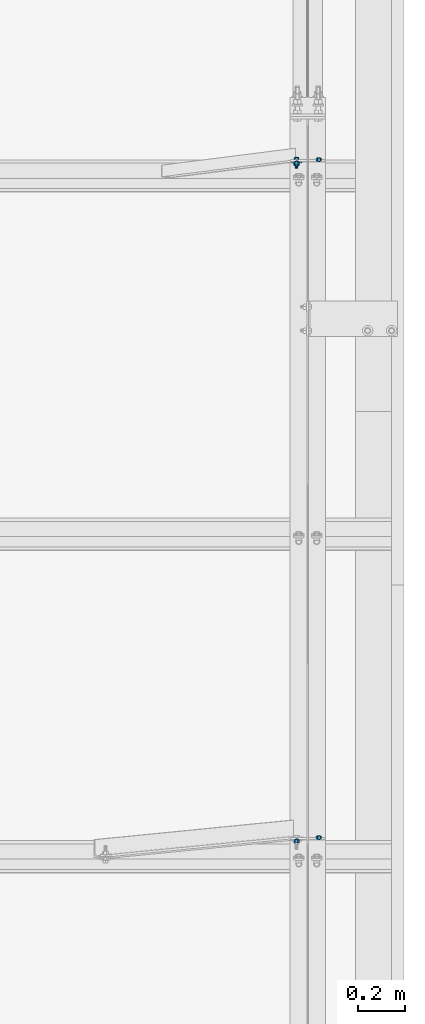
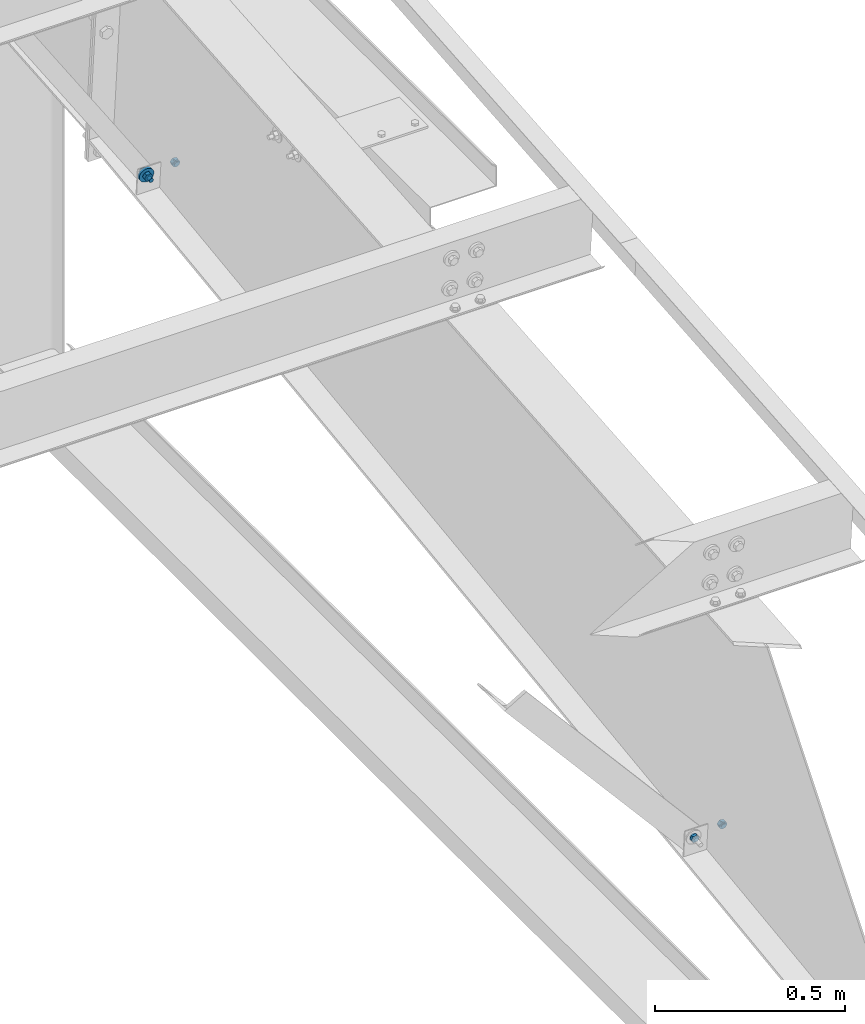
# One storey, part 169 of 185: 5 mechanical fasteners, 2 elements without a shape of their own.
"""IFC2X3 building model written with IfcOpenShell, lengths in millimetres."""

from ifc_helpers import new_model, si_unit, frame, origin_with_axes, origin_2d_with_axis, place, context, subcontext, project, spatial, polyline, circle, outline, extrude, source, transform, mapped, material, type_object, element, aggregate, save


model = new_model("IFC2X3")

# Units and contexts
model_context = context("Model", 3, precision=1e-05, world=origin_with_axes())
body_context = subcontext(model_context, "Body", "Model", "MODEL_VIEW")
ifc_project = project(units=[si_unit("LENGTHUNIT", "METRE", prefix="MILLI"), si_unit("AREAUNIT", "SQUARE_METRE"), si_unit("VOLUMEUNIT", "CUBIC_METRE"), si_unit("MASSUNIT", "GRAM", prefix="KILO"), si_unit("TIMEUNIT", "SECOND"), si_unit("PLANEANGLEUNIT", "RADIAN"), si_unit("SOLIDANGLEUNIT", "STERADIAN"), si_unit("THERMODYNAMICTEMPERATUREUNIT", "DEGREE_CELSIUS"), si_unit("LUMINOUSINTENSITYUNIT", "LUMEN")], contexts=[model_context])

# Site, building, storey
site_placement = place(None, origin_with_axes())
site = spatial("IfcSite", under=ifc_project, at=site_placement, Name="Undefined", CompositionType="ELEMENT")
building_placement = place(site_placement, origin_with_axes())
building = spatial("IfcBuilding", under=site, at=building_placement, Name="Undefined", CompositionType="ELEMENT")
storey_placement = place(building_placement, origin_with_axes())
storey = spatial("IfcBuildingStorey", under=building, at=storey_placement, Name="Undefined", CompositionType="ELEMENT", Elevation=0.0)

# Assembly, mechanical fastener
assembly_1_placement = place(storey_placement, origin_with_axes())
assembly_1 = element("IfcElementAssembly", 1, at=assembly_1_placement, inside=storey, Name="Steel Assembly", AssemblyPlace="NOTDEFINED", PredefinedType="RIGID_FRAME")
ifc_material_1 = material(Name="Undefined")
discrete_accessory_type = type_object("IfcDiscreteAccessoryType", Name="Bolt assembly")
shared_shape_1 = source(origin_with_axes(), body_context, "Body", "SweptSolid", [
    extrude(circle(Radius=7.14374971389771, at=origin_2d_with_axis()), frame((0.0, -1.59000001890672, 0.0), z_axis=(0.0, 1.0, 0.0), x_axis=(1.0, 0.0, 0.0)), (0.0, 0.0, 1.0), 1.7),
    extrude(outline(polyline([(10.9985221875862, 0.0), (5.4992610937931, 9.52499961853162), (-5.4992610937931, 9.52499961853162), (-10.9985221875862, 0.0), (-5.4992610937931, -9.52499961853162), (5.4992610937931, -9.52499961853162), (10.9985221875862, 0.0)])), frame((0.0, -15.0837496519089, 0.0), z_axis=(0.0, 1.0, 0.0), x_axis=(1.0, 0.0, 0.0)), (0.0, 0.0, 1.0), 9.5),
    extrude(circle(Radius=6.34999990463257, at=origin_2d_with_axis()), frame((0.0, -5.5587500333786, 0.0), z_axis=(0.0, 1.0, 0.0), x_axis=(1.0, 0.0, 0.0)), (0.0, 0.0, 1.0), 38.1),
    extrude(circle(Radius=13.4937496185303, at=origin_2d_with_axis()), frame((0.0, -5.5587500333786, 0.0), z_axis=(0.0, 1.0, 0.0), x_axis=(1.0, 0.0, 0.0)), (0.0, 0.0, 1.0), 4.0),
    extrude(circle(Radius=22.2250003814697, at=origin_2d_with_axis()), frame((0.0, 0.0, 0.0), z_axis=(0.0, 1.0, 0.0), x_axis=(1.0, 0.0, 0.0)), (0.0, 0.0, 1.0), 7.9),
    extrude(outline(polyline([(12.8316099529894, 0.0), (6.4158049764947, 11.1125001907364), (-6.4158049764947, 11.1125001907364), (-12.8316099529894, 0.0), (-6.4158049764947, -11.1125001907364), (6.4158049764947, -11.1125001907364), (12.8316099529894, 0.0)])), frame((0.0, 7.93750000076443, 0.0), z_axis=(0.0, 1.0, 0.0), x_axis=(1.0, 0.0, 0.0)), (0.0, 0.0, 1.0), 12.3),
])
mechanical_fastener_1_placement = place(assembly_1_placement, frame((44504.2214036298, 5139.48666846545, 5649.6561146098), z_axis=(0.836906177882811, -0.045454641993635, 0.545455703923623), x_axis=(-0.547346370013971, -0.0695012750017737, 0.834015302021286)))
mechanical_fastener_1 = element("IfcMechanicalFastener", 2, at=mechanical_fastener_1_placement, type_object=discrete_accessory_type, material=ifc_material_1, Name="Bolt assembly", NominalDiameter=12.6999998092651, NominalLength=38.0999984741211, context=body_context, shape_type="MappedRepresentation", body=[
    mapped(shared_shape_1, transform((0.0, 0.0, 0.0))),
])
aggregate(assembly_1, [mechanical_fastener_1])

# Assembly, mechanical fasteners
assembly_2_placement = place(storey_placement, origin_with_axes())
assembly_2 = element("IfcElementAssembly", 3, at=assembly_2_placement, inside=storey, Name="Steel Assembly", AssemblyPlace="NOTDEFINED", PredefinedType="RIGID_FRAME")
ifc_material_2 = material(Name="7990")
shared_shape_2 = source(origin_with_axes(), body_context, "Body", "SweptSolid", [
    extrude(circle(Radius=7.14374971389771, at=origin_2d_with_axis()), frame((0.0, -3.41600000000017, 0.0), z_axis=(0.0, 1.0, 0.0), x_axis=(1.0, 0.0, 0.0)), (0.0, 0.0, 1.0), 3.5),
    extrude(circle(Radius=11.4299998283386, at=origin_2d_with_axis()), frame((0.0, 0.0, 0.0), z_axis=(0.0, 1.0, 0.0), x_axis=(1.0, 0.0, 0.0)), (0.0, 0.0, 1.0), 4.2),
    extrude(outline(polyline([(12.171698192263, 0.0), (6.08584909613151, 10.5409998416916), (-6.08584909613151, 10.5409998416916), (-12.171698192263, 0.0), (-6.08584909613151, -10.5409998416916), (6.08584909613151, -10.5409998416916), (12.171698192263, 0.0)])), frame((0.0, 4.1909999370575, 0.0), z_axis=(0.0, 1.0, 0.0), x_axis=(1.0, 0.0, 0.0)), (0.0, 0.0, 1.0), 8.4),
])
mechanical_fastener_2_placement = place(assembly_2_placement, frame((44598.43125, 5139.5561697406, 5648.82209930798), z_axis=(0.921635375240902, -0.0322263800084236, 0.386716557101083), x_axis=(0.388056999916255, 0.0765376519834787, -0.9184518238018)))
mechanical_fastener_2 = element("IfcMechanicalFastener", 4, at=mechanical_fastener_2_placement, type_object=discrete_accessory_type, material=ifc_material_2, Name="Bolt assembly", NominalDiameter=12.6999998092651, NominalLength=38.0999984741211, context=body_context, shape_type="MappedRepresentation", body=[
    mapped(shared_shape_2, transform((0.0, 0.0, 0.0))),
])
mechanical_fastener_3_placement = place(assembly_2_placement, frame((44598.43125, 2265.56010628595, 5269.13359840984), z_axis=(0.921635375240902, -0.0322263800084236, 0.386716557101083), x_axis=(0.388056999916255, 0.0765376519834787, -0.9184518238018)))
mechanical_fastener_3 = element("IfcMechanicalFastener", 5, at=mechanical_fastener_3_placement, type_object=discrete_accessory_type, material=ifc_material_2, Name="Bolt assembly", NominalDiameter=12.6999998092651, NominalLength=38.0999984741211, context=body_context, shape_type="MappedRepresentation", body=[
    mapped(shared_shape_2, transform((0.0, 0.0, 0.0))),
])
shared_shape_3 = source(origin_with_axes(), body_context, "Body", "SweptSolid", [
    extrude(circle(Radius=7.14374971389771, at=origin_2d_with_axis()), frame((0.0, 0.0, 0.0), z_axis=(0.0, 1.0, 0.0), x_axis=(1.0, 0.0, 0.0)), (0.0, 0.0, 1.0), 3.5),
    extrude(circle(Radius=11.4299998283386, at=origin_2d_with_axis()), frame((0.0, 3.41600000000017, 0.0), z_axis=(0.0, 1.0, 0.0), x_axis=(1.0, 0.0, 0.0)), (0.0, 0.0, 1.0), 4.2),
    extrude(outline(polyline([(12.171698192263, 0.0), (6.08584909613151, 10.5409998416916), (-6.08584909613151, 10.5409998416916), (-12.171698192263, 0.0), (-6.08584909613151, -10.5409998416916), (6.08584909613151, -10.5409998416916), (12.171698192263, 0.0)])), frame((0.0, 7.60699993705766, 0.0), z_axis=(0.0, 1.0, 0.0), x_axis=(1.0, 0.0, 0.0)), (0.0, 0.0, 1.0), 8.4),
])
mechanical_fastener_4_placement = place(assembly_2_placement, frame((44504.76875, 5139.5561697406, 5648.82209930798), z_axis=(-0.921635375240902, -0.0322263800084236, 0.386716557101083), x_axis=(-0.388056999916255, 0.0765376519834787, -0.9184518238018)))
mechanical_fastener_4 = element("IfcMechanicalFastener", 6, at=mechanical_fastener_4_placement, type_object=discrete_accessory_type, material=ifc_material_2, Name="Bolt assembly", NominalDiameter=12.6999998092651, NominalLength=38.0999984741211, context=body_context, shape_type="MappedRepresentation", body=[
    mapped(shared_shape_3, transform((0.0, 0.0, 0.0))),
])
mechanical_fastener_5_placement = place(assembly_2_placement, frame((44504.7687500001, 2265.56010637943, 5269.13359840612), z_axis=(-0.921635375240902, -0.0322263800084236, 0.386716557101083), x_axis=(-0.388056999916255, 0.0765376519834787, -0.9184518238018)))
mechanical_fastener_5 = element("IfcMechanicalFastener", 7, at=mechanical_fastener_5_placement, type_object=discrete_accessory_type, material=ifc_material_2, Name="Bolt assembly", NominalDiameter=12.6999998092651, NominalLength=38.0999984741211, context=body_context, shape_type="MappedRepresentation", body=[
    mapped(shared_shape_3, transform((0.0, 0.0, 0.0))),
])
aggregate(assembly_2, [mechanical_fastener_4, mechanical_fastener_2, mechanical_fastener_5, mechanical_fastener_3])

save(model, "model.ifc")
